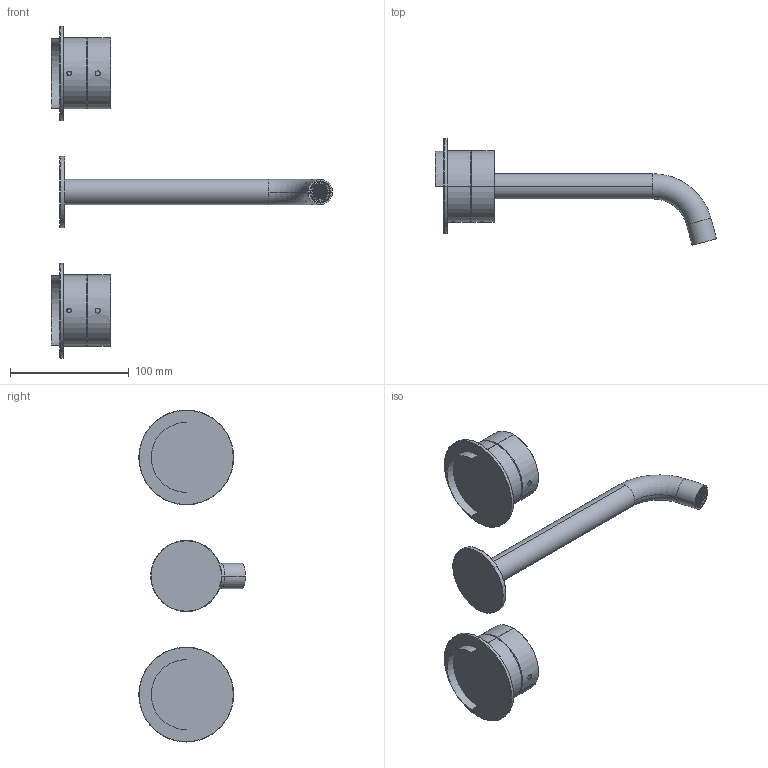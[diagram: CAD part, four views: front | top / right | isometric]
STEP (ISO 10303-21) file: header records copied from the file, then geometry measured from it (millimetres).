
FILE_DESCRIPTION((''),'2;1');
FILE_NAME('40000L613B000000_SW0001','2023-09-27T14:29:47',('matteo.follador'),(''),'CREO PARAMETRIC BY PTC INC, 2022424','CREO PARAMETRIC BY PTC INC, 2022424','');
FILE_SCHEMA(('AUTOMOTIVE_DESIGN { 1 0 10303 214 1 1 1 1 }'));
Length unit declared in the file: millimetre
Products named in the file (1): 40000L613B000000_SW0001
Bounding box: 237 x 89.76 x 280 mm (x, y, z)
Volume: 332863 mm3; surface area: 76069.8 mm2
Topology: 3 solids, 8 shells, 554 faces, 1206 edges, 801 vertices
Faces by surface type: cylinder 302, plane 188, cone 36, extrusion 20, torus 8
Entity records: 21407 total; most frequent: CARTESIAN_POINT 4880, DIRECTION 2914, ORIENTED_EDGE 2332, AXIS2_PLACEMENT_3D 1214, EDGE_CURVE 1170, VERTEX_POINT 767, EDGE_LOOP 691, CIRCLE 666
